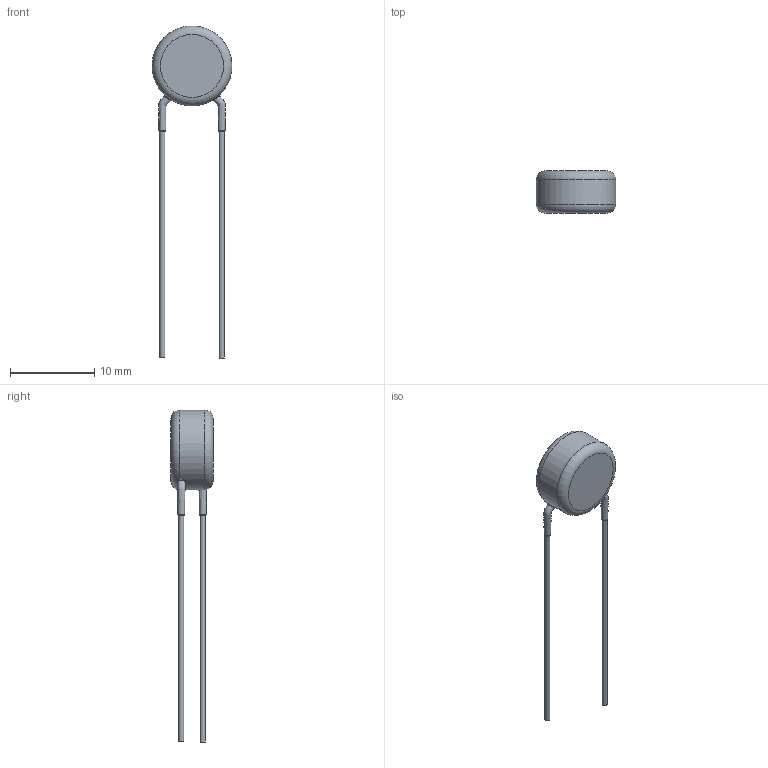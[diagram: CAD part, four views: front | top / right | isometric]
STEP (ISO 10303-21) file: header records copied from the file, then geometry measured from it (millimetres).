
FILE_DESCRIPTION(/* description */ (''),/* implementation_level */ '2;1');
FILE_NAME(/* name */ 'I:\Marketing\M6t1\3D-Models\Zchng-Werk-3\Upload for homepage\BCC neu\AY2 Straight\Step\AY2222#35Y5US63L7.stp',/* time_stamp */ '2023-07-13T14:08:25+02:00',/* author */ ('truediger'),/* organization */ (''),/* preprocessor_version */ 'ST-DEVELOPER v18',/* originating_system */ 'Autodesk Inventor 2020',/* authorisation */ '');
FILE_SCHEMA (('AUTOMOTIVE_DESIGN { 1 0 10303 214 3 1 1 }'));
Length unit declared in the file: millimetre
Products named in the file (1): Bauteil2
Bounding box: 9.5 x 5 x 39.5 mm (x, y, z)
Volume: 362.4 mm3; surface area: 388.5 mm2
Topology: 1 solids, 1 shells, 19 faces, 43 edges, 28 vertices
Faces by surface type: bspline 8, plane 6, cylinder 3, torus 2
Full cylindrical faces by diameter (mm): 0.6 x2, 9.5 x1
Entity records: 1559 total; most frequent: CARTESIAN_POINT 1098, ORIENTED_EDGE 86, DIRECTION 75, EDGE_CURVE 43, AXIS2_PLACEMENT_3D 36, VERTEX_POINT 28, CIRCLE 24, EDGE_LOOP 21
